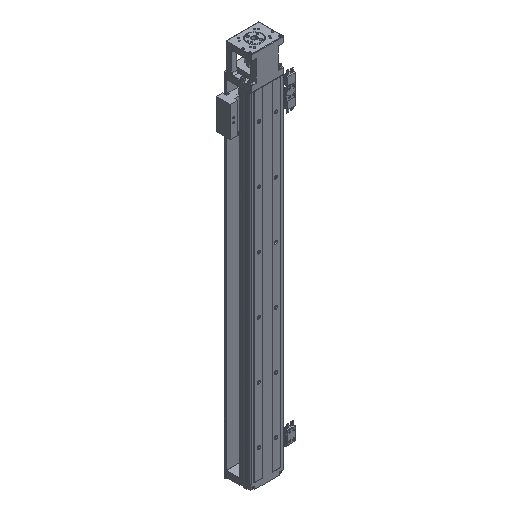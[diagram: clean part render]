
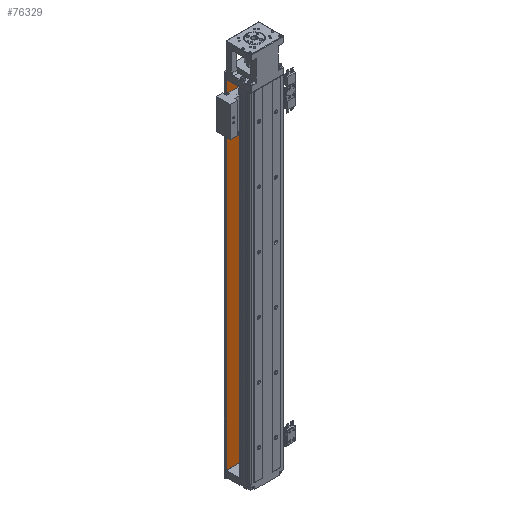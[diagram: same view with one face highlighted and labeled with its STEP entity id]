
A CAD part, isometric view. The second image highlights one B-rep face of the part: STEP entity #76329.
In plain terms, the highlighted planar face has unit normal (0, -1, 0).
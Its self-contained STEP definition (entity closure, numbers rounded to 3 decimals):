
#727 = PLANE ( 'NONE',  #63284 ) ;
#901 = CIRCLE ( 'NONE', #16273, 1.7 ) ;
#913 = CARTESIAN_POINT ( 'NONE',  ( 60.633, 3.762, 311. ) ) ;
#1056 = CARTESIAN_POINT ( 'NONE',  ( 20.133, 3.762, 305.3 ) ) ;
#1591 = EDGE_CURVE ( 'NONE', #15840, #52227, #45277, .T. ) ;
#2234 = EDGE_LOOP ( 'NONE', ( #37778, #56169 ) ) ;
#3901 = CARTESIAN_POINT ( 'NONE',  ( 60.633, 3.762, -311. ) ) ;
#4522 = AXIS2_PLACEMENT_3D ( 'NONE', #76689, #30390, #76161 ) ;
#5080 = EDGE_LOOP ( 'NONE', ( #71287, #64364, #46049, #72569 ) ) ;
#7683 = VERTEX_POINT ( 'NONE', #20943 ) ;
#10906 = FACE_BOUND ( 'NONE', #63924, .T. ) ;
#11160 = CIRCLE ( 'NONE', #39520, 1.7 ) ;
#11646 = LINE ( 'NONE', #913, #26930 ) ;
#14350 = CARTESIAN_POINT ( 'NONE',  ( 3.633, 3.762, 311. ) ) ;
#14466 = CIRCLE ( 'NONE', #23005, 1.7 ) ;
#14554 = DIRECTION ( 'NONE',  ( 0., 0., 1. ) ) ;
#14896 = VERTEX_POINT ( 'NONE', #28732 ) ;
#15840 = VERTEX_POINT ( 'NONE', #18851 ) ;
#15841 = LINE ( 'NONE', #14350, #48519 ) ;
#16273 = AXIS2_PLACEMENT_3D ( 'NONE', #53300, #72480, #66718 ) ;
#16748 = DIRECTION ( 'NONE',  ( 0., 0., 1. ) ) ;
#18221 = CARTESIAN_POINT ( 'NONE',  ( 44.133, 3.762, -308.7 ) ) ;
#18271 = VERTEX_POINT ( 'NONE', #68596 ) ;
#18851 = CARTESIAN_POINT ( 'NONE',  ( 20.133, 3.762, 308.7 ) ) ;
#19666 = CARTESIAN_POINT ( 'NONE',  ( 44.133, 3.762, -307. ) ) ;
#20740 = ORIENTED_EDGE ( 'NONE', *, *, #42318, .T. ) ;
#20943 = CARTESIAN_POINT ( 'NONE',  ( 3.633, 3.762, -311. ) ) ;
#22472 = DIRECTION ( 'NONE',  ( 0., 1., 0. ) ) ;
#23005 = AXIS2_PLACEMENT_3D ( 'NONE', #49009, #48733, #16748 ) ;
#23636 = VERTEX_POINT ( 'NONE', #3901 ) ;
#23725 = CIRCLE ( 'NONE', #4522, 1.7 ) ;
#24986 = DIRECTION ( 'NONE',  ( 0., 0., 1. ) ) ;
#25320 = CARTESIAN_POINT ( 'NONE',  ( 20.133, 3.762, -307. ) ) ;
#26930 = VECTOR ( 'NONE', #33172, 1000. ) ;
#27323 = EDGE_CURVE ( 'NONE', #27551, #7683, #28277, .T. ) ;
#27551 = VERTEX_POINT ( 'NONE', #39371 ) ;
#27832 = AXIS2_PLACEMENT_3D ( 'NONE', #25320, #71058, #31902 ) ;
#27993 = CARTESIAN_POINT ( 'NONE',  ( 20.133, 3.762, 307. ) ) ;
#28277 = LINE ( 'NONE', #83411, #49728 ) ;
#28732 = CARTESIAN_POINT ( 'NONE',  ( 44.133, 3.762, -305.3 ) ) ;
#29276 = AXIS2_PLACEMENT_3D ( 'NONE', #27993, #73988, #14554 ) ;
#30272 = FACE_BOUND ( 'NONE', #2234, .T. ) ;
#30390 = DIRECTION ( 'NONE',  ( 0., 1., 0. ) ) ;
#31902 = DIRECTION ( 'NONE',  ( 0., 0., 1. ) ) ;
#32424 = EDGE_CURVE ( 'NONE', #66228, #32492, #69973, .T. ) ;
#32492 = VERTEX_POINT ( 'NONE', #75769 ) ;
#33172 = DIRECTION ( 'NONE',  ( 0., 0., -1. ) ) ;
#34063 = DIRECTION ( 'NONE',  ( 1., 0., 0. ) ) ;
#34375 = FACE_BOUND ( 'NONE', #57200, .T. ) ;
#36679 = EDGE_CURVE ( 'NONE', #64462, #14896, #11160, .T. ) ;
#37309 = VERTEX_POINT ( 'NONE', #59186 ) ;
#37550 = AXIS2_PLACEMENT_3D ( 'NONE', #54829, #68013, #41713 ) ;
#37778 = ORIENTED_EDGE ( 'NONE', *, *, #66762, .T. ) ;
#37804 = VECTOR ( 'NONE', #62641, 1000. ) ;
#39371 = CARTESIAN_POINT ( 'NONE',  ( 3.633, 3.762, 311. ) ) ;
#39520 = AXIS2_PLACEMENT_3D ( 'NONE', #19666, #64191, #64463 ) ;
#39592 = EDGE_CURVE ( 'NONE', #41846, #23636, #11646, .T. ) ;
#41509 = FACE_OUTER_BOUND ( 'NONE', #5080, .T. ) ;
#41713 = DIRECTION ( 'NONE',  ( 0., 0., 1. ) ) ;
#41846 = VERTEX_POINT ( 'NONE', #46090 ) ;
#42318 = EDGE_CURVE ( 'NONE', #14896, #64462, #23725, .T. ) ;
#42495 = CIRCLE ( 'NONE', #27832, 1.7 ) ;
#43426 = ORIENTED_EDGE ( 'NONE', *, *, #60435, .T. ) ;
#44257 = EDGE_CURVE ( 'NONE', #27551, #41846, #15841, .T. ) ;
#44446 = CARTESIAN_POINT ( 'NONE',  ( 3.633, 3.762, 311. ) ) ;
#45277 = CIRCLE ( 'NONE', #29276, 1.7 ) ;
#46049 = ORIENTED_EDGE ( 'NONE', *, *, #44257, .F. ) ;
#46090 = CARTESIAN_POINT ( 'NONE',  ( 60.633, 3.762, 311. ) ) ;
#48519 = VECTOR ( 'NONE', #34063, 1000. ) ;
#48699 = ORIENTED_EDGE ( 'NONE', *, *, #52209, .T. ) ;
#48733 = DIRECTION ( 'NONE',  ( 0., 1., 0. ) ) ;
#49009 = CARTESIAN_POINT ( 'NONE',  ( 20.133, 3.762, 307. ) ) ;
#49728 = VECTOR ( 'NONE', #63692, 1000. ) ;
#50891 = EDGE_LOOP ( 'NONE', ( #74661, #80421 ) ) ;
#52209 = EDGE_CURVE ( 'NONE', #37309, #18271, #901, .T. ) ;
#52227 = VERTEX_POINT ( 'NONE', #1056 ) ;
#53300 = CARTESIAN_POINT ( 'NONE',  ( 44.133, 3.762, 307. ) ) ;
#54829 = CARTESIAN_POINT ( 'NONE',  ( 20.133, 3.762, -307. ) ) ;
#55006 = CARTESIAN_POINT ( 'NONE',  ( 44.133, 3.762, 307. ) ) ;
#56169 = ORIENTED_EDGE ( 'NONE', *, *, #32424, .T. ) ;
#57200 = EDGE_LOOP ( 'NONE', ( #20740, #75653 ) ) ;
#59186 = CARTESIAN_POINT ( 'NONE',  ( 44.133, 3.762, 308.7 ) ) ;
#60225 = LINE ( 'NONE', #62925, #37804 ) ;
#60435 = EDGE_CURVE ( 'NONE', #18271, #37309, #69307, .T. ) ;
#61618 = DIRECTION ( 'NONE',  ( 0., 0., 1. ) ) ;
#62641 = DIRECTION ( 'NONE',  ( 1., 0., 0. ) ) ;
#62925 = CARTESIAN_POINT ( 'NONE',  ( 3.633, 3.762, -311. ) ) ;
#63284 = AXIS2_PLACEMENT_3D ( 'NONE', #44446, #63558, #24986 ) ;
#63558 = DIRECTION ( 'NONE',  ( 0., 1., 0. ) ) ;
#63692 = DIRECTION ( 'NONE',  ( 0., 0., -1. ) ) ;
#63924 = EDGE_LOOP ( 'NONE', ( #48699, #43426 ) ) ;
#64191 = DIRECTION ( 'NONE',  ( 0., 1., 0. ) ) ;
#64364 = ORIENTED_EDGE ( 'NONE', *, *, #39592, .F. ) ;
#64462 = VERTEX_POINT ( 'NONE', #18221 ) ;
#64463 = DIRECTION ( 'NONE',  ( 0., 0., 1. ) ) ;
#65181 = EDGE_CURVE ( 'NONE', #7683, #23636, #60225, .T. ) ;
#66228 = VERTEX_POINT ( 'NONE', #78047 ) ;
#66718 = DIRECTION ( 'NONE',  ( 0., 0., 1. ) ) ;
#66762 = EDGE_CURVE ( 'NONE', #32492, #66228, #42495, .T. ) ;
#68013 = DIRECTION ( 'NONE',  ( 0., 1., 0. ) ) ;
#68596 = CARTESIAN_POINT ( 'NONE',  ( 44.133, 3.762, 305.3 ) ) ;
#69307 = CIRCLE ( 'NONE', #81391, 1.7 ) ;
#69973 = CIRCLE ( 'NONE', #37550, 1.7 ) ;
#71058 = DIRECTION ( 'NONE',  ( 0., 1., 0. ) ) ;
#71287 = ORIENTED_EDGE ( 'NONE', *, *, #65181, .T. ) ;
#72480 = DIRECTION ( 'NONE',  ( 0., 1., 0. ) ) ;
#72569 = ORIENTED_EDGE ( 'NONE', *, *, #27323, .T. ) ;
#73277 = FACE_BOUND ( 'NONE', #50891, .T. ) ;
#73988 = DIRECTION ( 'NONE',  ( 0., 1., 0. ) ) ;
#74661 = ORIENTED_EDGE ( 'NONE', *, *, #1591, .T. ) ;
#75653 = ORIENTED_EDGE ( 'NONE', *, *, #36679, .T. ) ;
#75769 = CARTESIAN_POINT ( 'NONE',  ( 20.133, 3.762, -305.3 ) ) ;
#76161 = DIRECTION ( 'NONE',  ( 0., 0., 1. ) ) ;
#76329 = ADVANCED_FACE ( 'NONE', ( #73277, #10906, #30272, #34375, #41509 ), #727, .F. ) ;
#76689 = CARTESIAN_POINT ( 'NONE',  ( 44.133, 3.762, -307. ) ) ;
#78047 = CARTESIAN_POINT ( 'NONE',  ( 20.133, 3.762, -308.7 ) ) ;
#80421 = ORIENTED_EDGE ( 'NONE', *, *, #83628, .T. ) ;
#81391 = AXIS2_PLACEMENT_3D ( 'NONE', #55006, #22472, #61618 ) ;
#83411 = CARTESIAN_POINT ( 'NONE',  ( 3.633, 3.762, 311. ) ) ;
#83628 = EDGE_CURVE ( 'NONE', #52227, #15840, #14466, .T. ) ;
